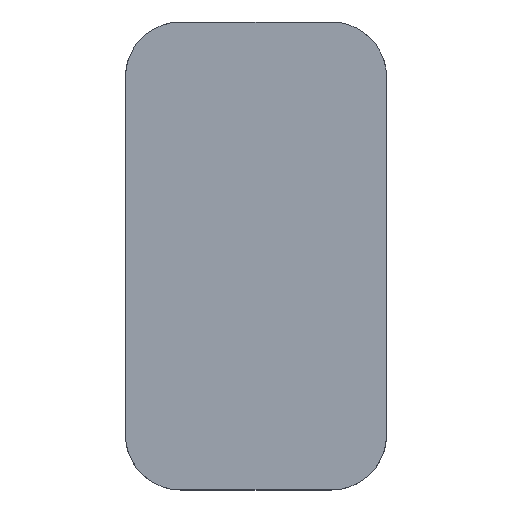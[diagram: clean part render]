
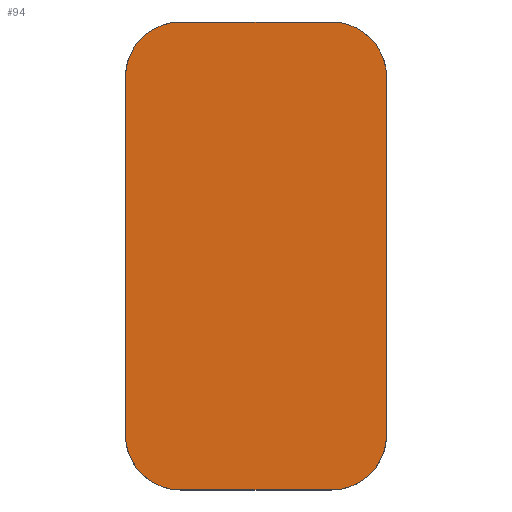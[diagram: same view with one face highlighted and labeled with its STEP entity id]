
A CAD part, top view. The second image highlights one B-rep face of the part: STEP entity #94.
In plain terms, the highlighted planar face has unit normal (0, 0, 1).
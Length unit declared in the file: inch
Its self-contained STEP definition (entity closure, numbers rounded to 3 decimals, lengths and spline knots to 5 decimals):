
#94=ADVANCED_FACE('',(#197),#198,.T.);
#197=FACE_OUTER_BOUND('',#330,.T.);
#198=PLANE('',#331);
#330=EDGE_LOOP('',(#483,#484,#485,#486,#487,#488,#489,#490));
#331=AXIS2_PLACEMENT_3D('',#491,#492,#493);
#483=ORIENTED_EDGE('',*,*,#767,.F.);
#484=ORIENTED_EDGE('',*,*,#768,.F.);
#485=ORIENTED_EDGE('',*,*,#769,.F.);
#486=ORIENTED_EDGE('',*,*,#770,.F.);
#487=ORIENTED_EDGE('',*,*,#771,.F.);
#488=ORIENTED_EDGE('',*,*,#772,.F.);
#489=ORIENTED_EDGE('',*,*,#755,.F.);
#490=ORIENTED_EDGE('',*,*,#744,.F.);
#491=CARTESIAN_POINT('',(0.3907,1.01577,0.075));
#492=DIRECTION('',(0.0,0.0,1.0));
#493=DIRECTION('',(1.0,0.0,0.0));
#744=EDGE_CURVE('',#866,#867,#868,.T.);
#755=EDGE_CURVE('',#867,#885,#886,.T.);
#767=EDGE_CURVE('',#903,#866,#904,.T.);
#768=EDGE_CURVE('',#905,#903,#906,.T.);
#769=EDGE_CURVE('',#907,#905,#908,.T.);
#770=EDGE_CURVE('',#909,#907,#910,.T.);
#771=EDGE_CURVE('',#911,#909,#912,.T.);
#772=EDGE_CURVE('',#885,#911,#913,.T.);
#866=VERTEX_POINT('',#1044);
#867=VERTEX_POINT('',#1045);
#868=LINE('',#1046,#1047);
#885=VERTEX_POINT('',#1071);
#886=B_SPLINE_CURVE_WITH_KNOTS('',3,(#1072,#1073,#1074,#1075),.UNSPECIFIED.,.F.,.F.,(4,4),(-1.0,-0.0),.UNSPECIFIED.);
#903=VERTEX_POINT('',#1102);
#904=B_SPLINE_CURVE_WITH_KNOTS('',3,(#1103,#1104,#1105,#1106),.UNSPECIFIED.,.F.,.F.,(4,4),(-1.0,-0.0),.UNSPECIFIED.);
#905=VERTEX_POINT('',#1107);
#906=LINE('',#1108,#1109);
#907=VERTEX_POINT('',#1110);
#908=B_SPLINE_CURVE_WITH_KNOTS('',3,(#1111,#1112,#1113,#1114),.UNSPECIFIED.,.F.,.F.,(4,4),(-1.0,-0.0),.UNSPECIFIED.);
#909=VERTEX_POINT('',#1115);
#910=LINE('',#1116,#1117);
#911=VERTEX_POINT('',#1118);
#912=B_SPLINE_CURVE_WITH_KNOTS('',3,(#1119,#1120,#1121,#1122),.UNSPECIFIED.,.F.,.F.,(4,4),(-1.0,-0.0),.UNSPECIFIED.);
#913=LINE('',#1123,#1124);
#1044=CARTESIAN_POINT('',(0.12893,1.82823,0.075));
#1045=CARTESIAN_POINT('',(0.65248,1.82823,0.075));
#1046=CARTESIAN_POINT('',(0.65248,1.82823,0.075));
#1047=VECTOR('',#1312,1.0);
#1071=CARTESIAN_POINT('',(0.84374,1.63698,0.075));
#1072=CARTESIAN_POINT('',(0.65248,1.82823,0.075));
#1073=CARTESIAN_POINT('',(0.75811,1.82823,0.075));
#1074=CARTESIAN_POINT('',(0.84374,1.74259,0.075));
#1075=CARTESIAN_POINT('',(0.84374,1.63698,0.075));
#1102=CARTESIAN_POINT('',(-0.06234,1.63698,0.075));
#1103=CARTESIAN_POINT('',(-0.06234,1.63698,0.075));
#1104=CARTESIAN_POINT('',(-0.06234,1.74259,0.075));
#1105=CARTESIAN_POINT('',(0.02329,1.82823,0.075));
#1106=CARTESIAN_POINT('',(0.12893,1.82823,0.075));
#1107=CARTESIAN_POINT('',(-0.06234,0.39458,0.075));
#1108=CARTESIAN_POINT('',(-0.06234,1.63698,0.075));
#1109=VECTOR('',#1327,1.0);
#1110=CARTESIAN_POINT('',(0.12893,0.20332,0.075));
#1111=CARTESIAN_POINT('',(0.12893,0.20332,0.075));
#1112=CARTESIAN_POINT('',(0.02329,0.20332,0.075));
#1113=CARTESIAN_POINT('',(-0.06234,0.28895,0.075));
#1114=CARTESIAN_POINT('',(-0.06234,0.39458,0.075));
#1115=CARTESIAN_POINT('',(0.65249,0.20332,0.075));
#1116=CARTESIAN_POINT('',(0.12893,0.20332,0.075));
#1117=VECTOR('',#1328,1.0);
#1118=CARTESIAN_POINT('',(0.84374,0.39458,0.075));
#1119=CARTESIAN_POINT('',(0.84374,0.39458,0.075));
#1120=CARTESIAN_POINT('',(0.84374,0.28895,0.075));
#1121=CARTESIAN_POINT('',(0.75812,0.20332,0.075));
#1122=CARTESIAN_POINT('',(0.65249,0.20332,0.075));
#1123=CARTESIAN_POINT('',(0.84374,0.39458,0.075));
#1124=VECTOR('',#1329,1.0);
#1312=DIRECTION('',(1.0,0.0,0.0));
#1327=DIRECTION('',(0.0,1.0,0.0));
#1328=DIRECTION('',(-1.0,-0.0,-0.0));
#1329=DIRECTION('',(-0.0,-1.0,-0.0));
